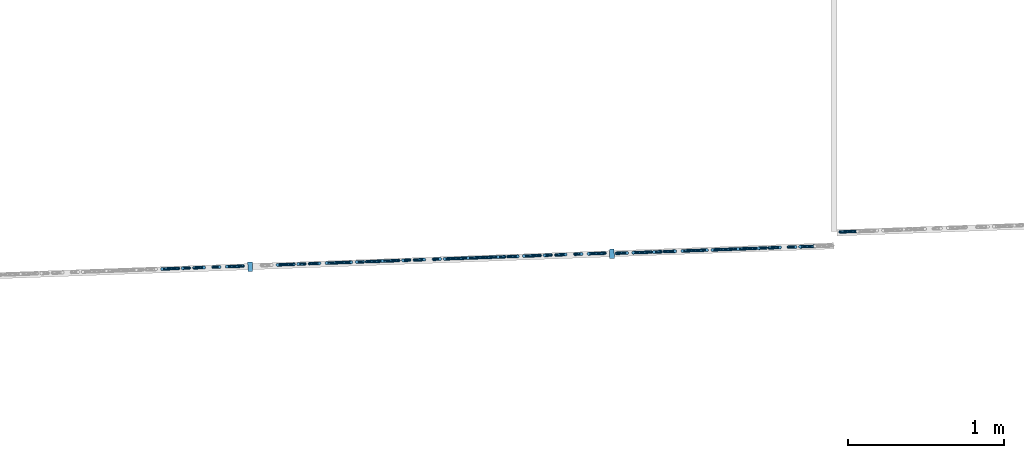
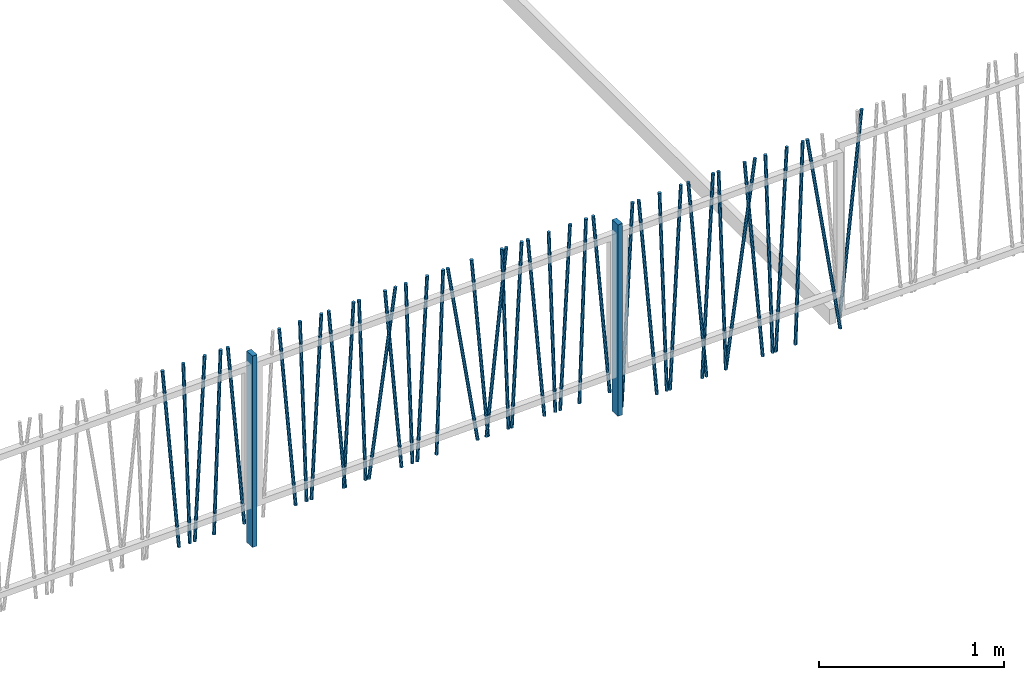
# One storey, part 8 of 171: 42 columns.
"""IFC2X3 building model written with IfcOpenShell, lengths in millimetres."""

from ifc_helpers import new_model, entity, si_unit, converted_unit, derived_unit, money_unit, direction, frame, origin_with_axes, origin_2d_with_axis, place, context, subcontext, project, spatial, rectangle, circle, extrude, clip, halfspace, material, type_object, element, save


model = new_model("IFC2X3")

# Units and contexts
model_context = context("Model", 3, precision=0.01, world=origin_with_axes(), true_north=direction((0.0, 1.0)))
body_context = subcontext(model_context, "Body", "Model", "MODEL_VIEW")
ifc_project = project(units=[si_unit("LENGTHUNIT", "METRE", prefix="MILLI"), si_unit("AREAUNIT", "SQUARE_METRE"), si_unit("VOLUMEUNIT", "CUBIC_METRE"), converted_unit("PLANEANGLEUNIT", "DEGREE", entity("IfcPlaneAngleMeasure", 0.0174532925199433), si_unit("PLANEANGLEUNIT", "RADIAN"), dimensions=[0, 0, 0, 0, 0, 0, 0]), money_unit("USD"), converted_unit("TIMEUNIT", "Year", entity("IfcTimeMeasure", 31557600.0), si_unit("TIMEUNIT", "SECOND"), dimensions=[0, 0, 1, 0, 0, 0, 0]), si_unit("MASSUNIT", "GRAM", prefix="KILO"), si_unit("THERMODYNAMICTEMPERATUREUNIT", "DEGREE_CELSIUS"), si_unit("LUMINOUSINTENSITYUNIT", "LUMEN"), si_unit("ENERGYUNIT", "JOULE", prefix="MEGA"), derived_unit("THERMALCONDUCTANCEUNIT", [(si_unit("POWERUNIT", "WATT"), 1), (si_unit("LENGTHUNIT", "METRE"), -1), (si_unit("THERMODYNAMICTEMPERATUREUNIT", "KELVIN"), -1)]), derived_unit("SPECIFICHEATCAPACITYUNIT", [(si_unit("ENERGYUNIT", "JOULE"), 1), (si_unit("MASSUNIT", "GRAM", prefix="KILO"), -1), (si_unit("THERMODYNAMICTEMPERATUREUNIT", "KELVIN"), -1)]), derived_unit("MASSDENSITYUNIT", [(si_unit("MASSUNIT", "GRAM", prefix="KILO"), 1), (si_unit("VOLUMEUNIT", "CUBIC_METRE"), -1)])], contexts=[model_context])

# Site, building, storey
site_placement = place(None, origin_with_axes())
site = spatial("IfcSite", under=ifc_project, at=site_placement, Name="Site", CompositionType="ELEMENT")
building_placement = place(site_placement, origin_with_axes())
building = spatial("IfcBuilding", under=site, at=building_placement, Name="Bâtiment", CompositionType="ELEMENT")
storey_placement = place(building_placement, frame((0.0, 0.0, 3000.0), z_axis=(0.0, 0.0, 1.0), x_axis=(1.0, 0.0, 0.0)))
storey = spatial("IfcBuildingStorey", under=building, at=storey_placement, Name="rdc", CompositionType="ELEMENT", Elevation=3000.0)

# Columns
ifc_material = material(Name="Empty Fill 2959611567")
column_type_1 = type_object("IfcColumnType", Name="Empty Fill 2959611567 D20", PredefinedType="NOTDEFINED")
column_1_placement = place(storey_placement, frame((2243227.355771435, -667128.4655792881, -2071.2112281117), z_axis=(0.0, 0.0, 1.0), x_axis=(0.03567989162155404, -0.9993632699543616, 0.0)))
element("IfcColumn", 1, at=column_1_placement, inside=storey, type_object=column_type_1, material=ifc_material, Name="Pilier-019", context=body_context, shape_type="Clipping", body=[
    clip(clip(extrude(circle(Radius=10.0, at=origin_2d_with_axis()), frame((0.0, -0.2197276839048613, -2.090569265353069), z_axis=(0.0, -0.1045284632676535, -0.9945218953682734), x_axis=(-1.0, 0.0, 0.0)), (0.0, 0.0, -1.0), 1332.692998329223), halfspace(frame((0.0, 0.0, 0.0), z_axis=(0.0, 0.0, 1.0), x_axis=(0.0, -1.0, 0.0)), True)), halfspace(frame((0.0, 0.0, 1321.2112281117), z_axis=(0.0, 0.0, -1.0), x_axis=(0.0, 1.0, 0.0)), True)),
])
column_2_placement = place(storey_placement, frame((2242749.862296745, -667231.5837930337, -2071.2112281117), z_axis=(0.0, 0.0, 1.0), x_axis=(-0.03567989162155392, 0.9993632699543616, 0.0)))
element("IfcColumn", 2, at=column_2_placement, inside=storey, type_object=column_type_1, material=ifc_material, Name="Pilier-019", context=body_context, shape_type="Clipping", body=[
    clip(clip(extrude(circle(Radius=10.0, at=origin_2d_with_axis()), frame((0.0, -0.02437434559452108, -0.6979899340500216), z_axis=(0.0, 0.03489949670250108, 0.9993908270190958), x_axis=(1.0, 0.0, 0.0)), (0.0, 0.0, 1.0), 1323.413395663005), halfspace(frame((0.0, 0.0, 0.0), z_axis=(0.0, 0.0, 1.0), x_axis=(0.0, -1.0, 0.0)), True)), halfspace(frame((0.0, 0.0, 1321.2112281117), z_axis=(0.0, 0.0, -1.0), x_axis=(0.0, 1.0, 0.0)), True)),
])
column_3_placement = place(storey_placement, frame((2242894.930412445, -667226.4044805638, -2071.2112281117), z_axis=(0.0, 0.0, 1.0), x_axis=(0.03567989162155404, -0.9993632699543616, 0.0)))
element("IfcColumn", 3, at=column_3_placement, inside=storey, type_object=column_type_1, material=ifc_material, Name="Pilier-019", context=body_context, shape_type="Clipping", body=[
    clip(clip(extrude(circle(Radius=10.0, at=origin_2d_with_axis()), frame((0.0, -0.02437434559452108, -0.6979899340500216), z_axis=(0.0, -0.03489949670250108, -0.9993908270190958), x_axis=(-1.0, 0.0, 0.0)), (0.0, 0.0, -1.0), 1323.413395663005), halfspace(frame((0.0, 0.0, 0.0), z_axis=(0.0, 0.0, 1.0), x_axis=(0.0, -1.0, 0.0)), True)), halfspace(frame((0.0, 0.0, 1321.2112281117), z_axis=(0.0, 0.0, -1.0), x_axis=(0.0, 1.0, 0.0)), True)),
])
for number, where, z_axis, x_axis, name in (
    (4, (2242097.550067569, -667254.8730516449, -2071.2112281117), (0.0, 0.0, 1.0), (0.03567989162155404, -0.9993632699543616, 0.0), "Pilier-019"),
    (5, (2242770.557064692, -667230.8449355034, -2071.2112281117), (0.0, 0.0, 1.0), (0.03567989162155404, -0.9993632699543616, 0.0), "Pilier-019"),
):
    element("IfcColumn", number, at=place(storey_placement, frame(where, z_axis=z_axis, x_axis=x_axis)), inside=storey, type_object=column_type_1, material=ifc_material, Name=name, context=body_context, shape_type="Clipping", body=[
        clip(clip(extrude(circle(Radius=10.0, at=origin_2d_with_axis()), frame((0.0, -0.05485622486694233, -1.046719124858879), z_axis=(0.0, -0.05233595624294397, -0.9986295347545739), x_axis=(-1.0, 0.0, 0.0)), (0.0, 0.0, -1.0), 1325.120698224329), halfspace(frame((0.0, 0.0, 0.0), z_axis=(0.0, 0.0, 1.0), x_axis=(0.0, -1.0, 0.0)), True)), halfspace(frame((0.0, 0.0, 1321.2112281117), z_axis=(0.0, 0.0, -1.0), x_axis=(0.0, 1.0, 0.0)), True)),
    ])
column_4_placement = place(storey_placement, frame((2242452.312746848, -667242.2070929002, -2071.2112281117), z_axis=(0.0, 0.0, 1.0), x_axis=(-0.03567989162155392, 0.9993632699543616, 0.0)))
element("IfcColumn", 6, at=column_4_placement, inside=storey, type_object=column_type_1, material=ifc_material, Name="Pilier-019", context=body_context, shape_type="Clipping", body=[
    clip(clip(extrude(circle(Radius=10.0, at=origin_2d_with_axis()), frame((0.0, -0.02437434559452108, -0.6979899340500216), z_axis=(0.0, 0.03489949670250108, 0.9993908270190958), x_axis=(1.0, 0.0, 0.0)), (0.0, 0.0, 1.0), 1323.413395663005), halfspace(frame((0.0, 0.0, 0.0), z_axis=(0.0, 0.0, 1.0), x_axis=(0.0, -1.0, 0.0)), True)), halfspace(frame((0.0, 0.0, 1321.2112281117), z_axis=(0.0, 0.0, -1.0), x_axis=(0.0, 1.0, 0.0)), True)),
])
column_5_placement = place(storey_placement, frame((2242452.179292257, -667242.2118575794, -2071.2112281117), z_axis=(0.0, 0.0, 1.0), x_axis=(0.03567989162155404, -0.9993632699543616, 0.0)))
element("IfcColumn", 7, at=column_5_placement, inside=storey, type_object=column_type_1, material=ifc_material, Name="Pilier-019", context=body_context, shape_type="Clipping", body=[
    clip(clip(extrude(circle(Radius=10.0, at=origin_2d_with_axis()), frame((0.0, -0.3911900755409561, -2.78346201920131), z_axis=(0.0, -0.1391731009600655, -0.9902680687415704), x_axis=(-1.0, 0.0, 0.0)), (0.0, 0.0, -1.0), 1339.817160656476), halfspace(frame((0.0, 0.0, 0.0), z_axis=(0.0, 0.0, 1.0), x_axis=(0.0, -1.0, 0.0)), True)), halfspace(frame((0.0, 0.0, 1321.2112281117), z_axis=(0.0, 0.0, -1.0), x_axis=(0.0, 1.0, 0.0)), True)),
])
column_6_placement = place(storey_placement, frame((2242686.809941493, -667233.8349276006, -2071.2112281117), z_axis=(0.0, 0.0, 1.0), x_axis=(-0.03567989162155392, 0.9993632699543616, 0.0)))
element("IfcColumn", 8, at=column_6_placement, inside=storey, type_object=column_type_1, material=ifc_material, Name="Pilier-019", context=body_context, shape_type="Clipping", body=[
    clip(clip(extrude(circle(Radius=10.0, at=origin_2d_with_axis()), frame((0.0, -0.152502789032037, -1.743114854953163), z_axis=(0.0, 0.08715574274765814, 0.9961946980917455), x_axis=(1.0, 0.0, 0.0)), (0.0, 0.0, 1.0), 1329.75758690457), halfspace(frame((0.0, 0.0, 0.0), z_axis=(0.0, 0.0, 1.0), x_axis=(0.0, -1.0, 0.0)), True)), halfspace(frame((0.0, 0.0, 1321.2112281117), z_axis=(0.0, 0.0, -1.0), x_axis=(0.0, 1.0, 0.0)), True)),
])
column_7_placement = place(storey_placement, frame((2242076.855299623, -667255.6119091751, -2071.2112281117), z_axis=(0.0, 0.0, 1.0), x_axis=(-0.03567989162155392, 0.9993632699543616, 0.0)))
element("IfcColumn", 9, at=column_7_placement, inside=storey, type_object=column_type_1, material=ifc_material, Name="Pilier-019", context=body_context, shape_type="Clipping", body=[
    clip(clip(extrude(circle(Radius=10.0, at=origin_2d_with_axis()), frame((0.0, -0.02437434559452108, -0.6979899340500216), z_axis=(0.0, 0.03489949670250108, 0.9993908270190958), x_axis=(1.0, 0.0, 0.0)), (0.0, 0.0, 1.0), 1323.413395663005), halfspace(frame((0.0, 0.0, 0.0), z_axis=(0.0, 0.0, 1.0), x_axis=(0.0, -1.0, 0.0)), True)), halfspace(frame((0.0, 0.0, 1321.2112281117), z_axis=(0.0, 0.0, -1.0), x_axis=(0.0, 1.0, 0.0)), True)),
])
column_8_placement = place(storey_placement, frame((2242328.850263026, -667246.6150276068, -2071.2112281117), z_axis=(0.0, 0.0, 1.0), x_axis=(-0.03567989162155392, 0.9993632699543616, 0.0)))
element("IfcColumn", 10, at=column_8_placement, inside=storey, type_object=column_type_1, material=ifc_material, Name="Pilier-019", context=body_context, shape_type="Clipping", body=[
    clip(clip(extrude(circle(Radius=10.0, at=origin_2d_with_axis()), frame((0.0, -0.152502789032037, -1.743114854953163), z_axis=(0.0, 0.08715574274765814, 0.9961946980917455), x_axis=(1.0, 0.0, 0.0)), (0.0, 0.0, 1.0), 1329.75758690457), halfspace(frame((0.0, 0.0, 0.0), z_axis=(0.0, 0.0, 1.0), x_axis=(0.0, -1.0, 0.0)), True)), halfspace(frame((0.0, 0.0, 1321.2112281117), z_axis=(0.0, 0.0, -1.0), x_axis=(0.0, 1.0, 0.0)), True)),
])
column_9_placement = place(storey_placement, frame((2243179.518060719, -667216.2439546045, -2071.2112281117), z_axis=(0.0, 0.0, 1.0), x_axis=(-0.03567989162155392, 0.9993632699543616, 0.0)))
element("IfcColumn", 11, at=column_9_placement, inside=storey, type_object=column_type_1, material=ifc_material, Name="Pilier-019", context=body_context, shape_type="Clipping", body=[
    clip(clip(extrude(circle(Radius=10.0, at=origin_2d_with_axis()), frame((0.0, -0.4955357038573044, -3.128689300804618), z_axis=(0.0, 0.1564344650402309, 0.9876883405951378), x_axis=(1.0, 0.0, 0.0)), (0.0, 0.0, 1.0), 1344.015669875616), halfspace(frame((0.0, 0.0, 0.0), z_axis=(0.0, 0.0, 1.0), x_axis=(0.0, -1.0, 0.0)), True)), halfspace(frame((0.0, 0.0, 1321.2112281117), z_axis=(0.0, 0.0, -1.0), x_axis=(0.0, 1.0, 0.0)), True)),
])
for number, where, z_axis, x_axis, name in (
    (12, (2242302.005706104, -667247.573448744, -2071.2112281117), (0.0, 0.0, 1.0), (0.03567989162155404, -0.9993632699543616, 0.0), "Pilier-019"),
    (13, (2241789.848209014, -667265.8588155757, -2071.2112281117), (0.0, 0.0, 1.0), (0.03567989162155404, -0.9993632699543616, 0.0), "Pilier-019"),
):
    element("IfcColumn", number, at=place(storey_placement, frame(where, z_axis=z_axis, x_axis=x_axis)), inside=storey, type_object=column_type_1, material=ifc_material, Name=name, context=body_context, shape_type="Clipping", body=[
        clip(clip(extrude(circle(Radius=10.0, at=origin_2d_with_axis()), frame((0.0, -0.05485622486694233, -1.046719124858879), z_axis=(0.0, -0.05233595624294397, -0.9986295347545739), x_axis=(-1.0, 0.0, 0.0)), (0.0, 0.0, -1.0), 1325.120698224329), halfspace(frame((0.0, 0.0, 0.0), z_axis=(0.0, 0.0, 1.0), x_axis=(0.0, -1.0, 0.0)), True)), halfspace(frame((0.0, 0.0, 1321.2112281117), z_axis=(0.0, 0.0, -1.0), x_axis=(0.0, 1.0, 0.0)), True)),
    ])
column_10_placement = place(storey_placement, frame((2239719.357314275, -667336.2186967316, -1950.0), z_axis=(0.0, 0.0, 1.0), x_axis=(-0.03567989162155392, 0.9993632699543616, 0.0)))
element("IfcColumn", 14, at=column_10_placement, inside=storey, type_object=column_type_1, material=ifc_material, Name="Pilier-019", context=body_context, shape_type="Clipping", body=[
    clip(clip(extrude(circle(Radius=10.0, at=origin_2d_with_axis()), frame((0.0, -0.152502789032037, -1.743114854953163), z_axis=(0.0, 0.08715574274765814, 0.9961946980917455), x_axis=(1.0, 0.0, 0.0)), (0.0, 0.0, 1.0), 1208.083351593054), halfspace(frame((0.0, 0.0, 0.0), z_axis=(0.0, 0.0, 1.0), x_axis=(0.0, -1.0, 0.0)), True)), halfspace(frame((0.0, 0.0, 1200.0), z_axis=(0.0, 0.0, -1.0), x_axis=(0.0, 1.0, 0.0)), True)),
])
column_11_placement = place(storey_placement, frame((2241072.521105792, -667287.9071979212, -1950.0), z_axis=(0.0, 0.0, 1.0), x_axis=(-0.03567989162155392, 0.9993632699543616, 0.0)))
element("IfcColumn", 15, at=column_11_placement, inside=storey, type_object=column_type_1, material=ifc_material, Name="Pilier-019", context=body_context, shape_type="Clipping", body=[
    clip(clip(extrude(circle(Radius=10.0, at=origin_2d_with_axis()), frame((0.0, -0.02437434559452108, -0.6979899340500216), z_axis=(0.0, 0.03489949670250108, 0.9993908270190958), x_axis=(1.0, 0.0, 0.0)), (0.0, 0.0, 1.0), 1202.128283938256), halfspace(frame((0.0, 0.0, 0.0), z_axis=(0.0, 0.0, 1.0), x_axis=(0.0, -1.0, 0.0)), True)), halfspace(frame((0.0, 0.0, 1200.0), z_axis=(0.0, 0.0, -1.0), x_axis=(0.0, 1.0, 0.0)), True)),
])
column_12_placement = place(storey_placement, frame((2241300.650538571, -667279.7623784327, -1950.0), z_axis=(0.0, 0.0, 1.0), x_axis=(-0.03567989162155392, 0.9993632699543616, 0.0)))
element("IfcColumn", 16, at=column_12_placement, inside=storey, type_object=column_type_1, material=ifc_material, Name="Pilier-019", context=body_context, shape_type="Clipping", body=[
    clip(clip(extrude(circle(Radius=10.0, at=origin_2d_with_axis()), frame((0.0, -0.152502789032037, -1.743114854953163), z_axis=(0.0, 0.08715574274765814, 0.9961946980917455), x_axis=(1.0, 0.0, 0.0)), (0.0, 0.0, 1.0), 1208.083351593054), halfspace(frame((0.0, 0.0, 0.0), z_axis=(0.0, 0.0, 1.0), x_axis=(0.0, -1.0, 0.0)), True)), halfspace(frame((0.0, 0.0, 1200.0), z_axis=(0.0, 0.0, -1.0), x_axis=(0.0, 1.0, 0.0)), True)),
])
column_13_placement = place(storey_placement, frame((2241523.598959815, -667271.8025346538, -1950.0), z_axis=(0.0, 0.0, 1.0), x_axis=(0.03567989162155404, -0.9993632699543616, 0.0)))
element("IfcColumn", 17, at=column_13_placement, inside=storey, type_object=column_type_1, material=ifc_material, Name="Pilier-019", context=body_context, shape_type="Clipping", body=[
    clip(clip(extrude(circle(Radius=10.0, at=origin_2d_with_axis()), frame((0.0, -0.02437434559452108, -0.6979899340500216), z_axis=(0.0, -0.03489949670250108, -0.9993908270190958), x_axis=(-1.0, 0.0, 0.0)), (0.0, 0.0, -1.0), 1202.128283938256), halfspace(frame((0.0, 0.0, 0.0), z_axis=(0.0, 0.0, 1.0), x_axis=(0.0, -1.0, 0.0)), True)), halfspace(frame((0.0, 0.0, 1200.0), z_axis=(0.0, 0.0, -1.0), x_axis=(0.0, 1.0, 0.0)), True)),
])
column_14_placement = place(storey_placement, frame((2241370.07065569, -667277.2838980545, -1950.0), z_axis=(0.0, 0.0, 1.0), x_axis=(-0.03567989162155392, 0.9993632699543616, 0.0)))
element("IfcColumn", 18, at=column_14_placement, inside=storey, type_object=column_type_1, material=ifc_material, Name="Pilier-019", context=body_context, shape_type="Clipping", body=[
    clip(clip(extrude(circle(Radius=10.0, at=origin_2d_with_axis()), frame((0.0, -0.02437434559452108, -0.6979899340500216), z_axis=(0.0, 0.03489949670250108, 0.9993908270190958), x_axis=(1.0, 0.0, 0.0)), (0.0, 0.0, 1.0), 1202.128283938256), halfspace(frame((0.0, 0.0, 0.0), z_axis=(0.0, 0.0, 1.0), x_axis=(0.0, -1.0, 0.0)), True)), halfspace(frame((0.0, 0.0, 1200.0), z_axis=(0.0, 0.0, -1.0), x_axis=(0.0, 1.0, 0.0)), True)),
])
column_15_placement = place(storey_placement, frame((2241401.343884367, -667276.1673617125, -1950.0), z_axis=(0.0, 0.0, 1.0), x_axis=(0.03567989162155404, -0.9993632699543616, 0.0)))
element("IfcColumn", 19, at=column_15_placement, inside=storey, type_object=column_type_1, material=ifc_material, Name="Pilier-019", context=body_context, shape_type="Clipping", body=[
    clip(clip(extrude(circle(Radius=10.0, at=origin_2d_with_axis()), frame((0.0, -0.05485622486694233, -1.046719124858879), z_axis=(0.0, -0.05233595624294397, -0.9986295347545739), x_axis=(-1.0, 0.0, 0.0)), (0.0, 0.0, -1.0), 1203.743126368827), halfspace(frame((0.0, 0.0, 0.0), z_axis=(0.0, 0.0, 1.0), x_axis=(0.0, -1.0, 0.0)), True)), halfspace(frame((0.0, 0.0, 1200.0), z_axis=(0.0, 0.0, -1.0), x_axis=(0.0, 1.0, 0.0)), True)),
])
column_16_placement = place(storey_placement, frame((2240932.792525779, -667292.895874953, -1950.0), z_axis=(0.0, 0.0, 1.0), x_axis=(0.03567989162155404, -0.9993632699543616, 0.0)))
element("IfcColumn", 20, at=column_16_placement, inside=storey, type_object=column_type_1, material=ifc_material, Name="Pilier-019", context=body_context, shape_type="Clipping", body=[
    clip(clip(extrude(circle(Radius=10.0, at=origin_2d_with_axis()), frame((0.0, -0.2197276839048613, -2.090569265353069), z_axis=(0.0, -0.1045284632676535, -0.9945218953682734), x_axis=(-1.0, 0.0, 0.0)), (0.0, 0.0, -1.0), 1210.814104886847), halfspace(frame((0.0, 0.0, 0.0), z_axis=(0.0, 0.0, 1.0), x_axis=(0.0, -1.0, 0.0)), True)), halfspace(frame((0.0, 0.0, 1200.0), z_axis=(0.0, 0.0, -1.0), x_axis=(0.0, 1.0, 0.0)), True)),
])
column_17_placement = place(storey_placement, frame((2240392.364311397, -667312.1905805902, -1950.0), z_axis=(0.0, 0.0, 1.0), x_axis=(-0.03567989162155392, 0.9993632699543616, 0.0)))
element("IfcColumn", 21, at=column_17_placement, inside=storey, type_object=column_type_1, material=ifc_material, Name="Pilier-019", context=body_context, shape_type="Clipping", body=[
    clip(clip(extrude(circle(Radius=10.0, at=origin_2d_with_axis()), frame((0.0, -0.152502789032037, -1.743114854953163), z_axis=(0.0, 0.08715574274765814, 0.9961946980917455), x_axis=(1.0, 0.0, 0.0)), (0.0, 0.0, 1.0), 1208.083351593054), halfspace(frame((0.0, 0.0, 0.0), z_axis=(0.0, 0.0, 1.0), x_axis=(0.0, -1.0, 0.0)), True)), halfspace(frame((0.0, 0.0, 1200.0), z_axis=(0.0, 0.0, -1.0), x_axis=(0.0, 1.0, 0.0)), True)),
])
column_18_placement = place(storey_placement, frame((2241093.642025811, -667287.1531256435, -1950.0), z_axis=(0.0, 0.0, 1.0), x_axis=(0.03567989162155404, -0.9993632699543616, 0.0)))
element("IfcColumn", 22, at=column_18_placement, inside=storey, type_object=column_type_1, material=ifc_material, Name="Pilier-019", context=body_context, shape_type="Clipping", body=[
    clip(clip(extrude(circle(Radius=10.0, at=origin_2d_with_axis()), frame((0.0, -0.05485622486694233, -1.046719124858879), z_axis=(0.0, -0.05233595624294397, -0.9986295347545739), x_axis=(-1.0, 0.0, 0.0)), (0.0, 0.0, -1.0), 1203.743126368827), halfspace(frame((0.0, 0.0, 0.0), z_axis=(0.0, 0.0, 1.0), x_axis=(0.0, -1.0, 0.0)), True)), halfspace(frame((0.0, 0.0, 1200.0), z_axis=(0.0, 0.0, -1.0), x_axis=(0.0, 1.0, 0.0)), True)),
])
column_19_placement = place(storey_placement, frame((2240034.404632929, -667324.9706805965, -1950.0), z_axis=(0.0, 0.0, 1.0), x_axis=(-0.03567989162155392, 0.9993632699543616, 0.0)))
element("IfcColumn", 23, at=column_19_placement, inside=storey, type_object=column_type_1, material=ifc_material, Name="Pilier-019", context=body_context, shape_type="Clipping", body=[
    clip(clip(extrude(circle(Radius=10.0, at=origin_2d_with_axis()), frame((0.0, -0.152502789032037, -1.743114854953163), z_axis=(0.0, 0.08715574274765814, 0.9961946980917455), x_axis=(1.0, 0.0, 0.0)), (0.0, 0.0, 1.0), 1208.083351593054), halfspace(frame((0.0, 0.0, 0.0), z_axis=(0.0, 0.0, 1.0), x_axis=(0.0, -1.0, 0.0)), True)), halfspace(frame((0.0, 0.0, 1200.0), z_axis=(0.0, 0.0, -1.0), x_axis=(0.0, 1.0, 0.0)), True)),
])
column_20_placement = place(storey_placement, frame((2239788.777431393, -667333.7402163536, -1950.0), z_axis=(0.0, 0.0, 1.0), x_axis=(-0.03567989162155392, 0.9993632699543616, 0.0)))
element("IfcColumn", 24, at=column_20_placement, inside=storey, type_object=column_type_1, material=ifc_material, Name="Pilier-019", context=body_context, shape_type="Clipping", body=[
    clip(clip(extrude(circle(Radius=10.0, at=origin_2d_with_axis()), frame((0.0, -0.02437434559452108, -0.6979899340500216), z_axis=(0.0, 0.03489949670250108, 0.9993908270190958), x_axis=(1.0, 0.0, 0.0)), (0.0, 0.0, 1.0), 1202.128283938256), halfspace(frame((0.0, 0.0, 0.0), z_axis=(0.0, 0.0, 1.0), x_axis=(0.0, -1.0, 0.0)), True)), halfspace(frame((0.0, 0.0, 1200.0), z_axis=(0.0, 0.0, -1.0), x_axis=(0.0, 1.0, 0.0)), True)),
])
column_21_placement = place(storey_placement, frame((2239820.05066007, -667332.6236800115, -1950.0), z_axis=(0.0, 0.0, 1.0), x_axis=(0.03567989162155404, -0.9993632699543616, 0.0)))
element("IfcColumn", 25, at=column_21_placement, inside=storey, type_object=column_type_1, material=ifc_material, Name="Pilier-019", context=body_context, shape_type="Clipping", body=[
    clip(clip(extrude(circle(Radius=10.0, at=origin_2d_with_axis()), frame((0.0, -0.05485622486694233, -1.046719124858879), z_axis=(0.0, -0.05233595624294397, -0.9986295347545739), x_axis=(-1.0, 0.0, 0.0)), (0.0, 0.0, -1.0), 1203.743126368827), halfspace(frame((0.0, 0.0, 0.0), z_axis=(0.0, 0.0, 1.0), x_axis=(0.0, -1.0, 0.0)), True)), halfspace(frame((0.0, 0.0, 1200.0), z_axis=(0.0, 0.0, -1.0), x_axis=(0.0, 1.0, 0.0)), True)),
])
for number, where, z_axis, x_axis, name in (
    (26, (2240942.690860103, -667292.5424784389, -1950.0), (0.0, 0.0, 1.0), (-0.03567989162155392, 0.9993632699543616, 0.0), "Pilier-019"),
    (27, (2241716.068244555, -667264.9308760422, -1950.0), (0.0, 0.0, 1.0), (-0.03567989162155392, 0.9993632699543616, 0.0), "Pilier-019"),
):
    element("IfcColumn", number, at=place(storey_placement, frame(where, z_axis=z_axis, x_axis=x_axis)), inside=storey, type_object=column_type_1, material=ifc_material, Name=name, context=body_context, shape_type="Clipping", body=[
        clip(clip(extrude(circle(Radius=10.0, at=origin_2d_with_axis()), frame((0.0, -0.152502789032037, -1.743114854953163), z_axis=(0.0, 0.08715574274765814, 0.9961946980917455), x_axis=(1.0, 0.0, 0.0)), (0.0, 0.0, 1.0), 1208.083351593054), halfspace(frame((0.0, 0.0, 0.0), z_axis=(0.0, 0.0, 1.0), x_axis=(0.0, -1.0, 0.0)), True)), halfspace(frame((0.0, 0.0, 1200.0), z_axis=(0.0, 0.0, -1.0), x_axis=(0.0, 1.0, 0.0)), True)),
    ])
column_22_placement = place(storey_placement, frame((2240876.484538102, -667294.9062178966, -1950.0), z_axis=(0.0, 0.0, 1.0), x_axis=(-0.03567989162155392, 0.9993632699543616, 0.0)))
element("IfcColumn", 28, at=column_22_placement, inside=storey, type_object=column_type_1, material=ifc_material, Name="Pilier-019", context=body_context, shape_type="Clipping", body=[
    clip(clip(extrude(circle(Radius=10.0, at=origin_2d_with_axis()), frame((0.0, -0.4955357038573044, -3.128689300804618), z_axis=(0.0, 0.1564344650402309, 0.9876883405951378), x_axis=(1.0, 0.0, 0.0)), (0.0, 0.0, 1.0), 1221.293528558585), halfspace(frame((0.0, 0.0, 0.0), z_axis=(0.0, 0.0, 1.0), x_axis=(0.0, -1.0, 0.0)), True)), halfspace(frame((0.0, 0.0, 1200.0), z_axis=(0.0, 0.0, -1.0), x_axis=(0.0, 1.0, 0.0)), True)),
])
column_23_placement = place(storey_placement, frame((2240185.355798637, -667319.5813278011, -1950.0), z_axis=(0.0, 0.0, 1.0), x_axis=(0.03567989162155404, -0.9993632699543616, 0.0)))
element("IfcColumn", 29, at=column_23_placement, inside=storey, type_object=column_type_1, material=ifc_material, Name="Pilier-019", context=body_context, shape_type="Clipping", body=[
    clip(clip(extrude(circle(Radius=10.0, at=origin_2d_with_axis()), frame((0.0, -0.3911900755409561, -2.78346201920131), z_axis=(0.0, -0.1391731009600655, -0.9902680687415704), x_axis=(-1.0, 0.0, 0.0)), (0.0, 0.0, -1.0), 1217.414720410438), halfspace(frame((0.0, 0.0, 0.0), z_axis=(0.0, 0.0, 1.0), x_axis=(0.0, -1.0, 0.0)), True)), halfspace(frame((0.0, 0.0, 1200.0), z_axis=(0.0, 0.0, -1.0), x_axis=(0.0, 1.0, 0.0)), True)),
])
column_24_placement = place(storey_placement, frame((2240164.234878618, -667320.3354000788, -1950.0), z_axis=(0.0, 0.0, 1.0), x_axis=(-0.03567989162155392, 0.9993632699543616, 0.0)))
element("IfcColumn", 30, at=column_24_placement, inside=storey, type_object=column_type_1, material=ifc_material, Name="Pilier-019", context=body_context, shape_type="Clipping", body=[
    clip(clip(extrude(circle(Radius=10.0, at=origin_2d_with_axis()), frame((0.0, -0.02437434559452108, -0.6979899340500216), z_axis=(0.0, 0.03489949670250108, 0.9993908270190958), x_axis=(1.0, 0.0, 0.0)), (0.0, 0.0, 1.0), 1202.128283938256), halfspace(frame((0.0, 0.0, 0.0), z_axis=(0.0, 0.0, 1.0), x_axis=(0.0, -1.0, 0.0)), True)), halfspace(frame((0.0, 0.0, 1200.0), z_axis=(0.0, 0.0, -1.0), x_axis=(0.0, 1.0, 0.0)), True)),
])
column_25_placement = place(storey_placement, frame((2240493.057657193, -667308.59556387, -1950.0), z_axis=(0.0, 0.0, 1.0), x_axis=(0.03567989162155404, -0.9993632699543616, 0.0)))
element("IfcColumn", 31, at=column_25_placement, inside=storey, type_object=column_type_1, material=ifc_material, Name="Pilier-019", context=body_context, shape_type="Clipping", body=[
    clip(clip(extrude(circle(Radius=10.0, at=origin_2d_with_axis()), frame((0.0, -0.05485622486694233, -1.046719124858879), z_axis=(0.0, -0.05233595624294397, -0.9986295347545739), x_axis=(-1.0, 0.0, 0.0)), (0.0, 0.0, -1.0), 1203.743126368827), halfspace(frame((0.0, 0.0, 0.0), z_axis=(0.0, 0.0, 1.0), x_axis=(0.0, -1.0, 0.0)), True)), halfspace(frame((0.0, 0.0, 1200.0), z_axis=(0.0, 0.0, -1.0), x_axis=(0.0, 1.0, 0.0)), True)),
])
column_26_placement = place(storey_placement, frame((2240461.784428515, -667309.7121002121, -1950.0), z_axis=(0.0, 0.0, 1.0), x_axis=(-0.03567989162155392, 0.9993632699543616, 0.0)))
element("IfcColumn", 32, at=column_26_placement, inside=storey, type_object=column_type_1, material=ifc_material, Name="Pilier-019", context=body_context, shape_type="Clipping", body=[
    clip(clip(extrude(circle(Radius=10.0, at=origin_2d_with_axis()), frame((0.0, -0.02437434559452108, -0.6979899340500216), z_axis=(0.0, 0.03489949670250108, 0.9993908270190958), x_axis=(1.0, 0.0, 0.0)), (0.0, 0.0, 1.0), 1202.128283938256), halfspace(frame((0.0, 0.0, 0.0), z_axis=(0.0, 0.0, 1.0), x_axis=(0.0, -1.0, 0.0)), True)), halfspace(frame((0.0, 0.0, 1200.0), z_axis=(0.0, 0.0, -1.0), x_axis=(0.0, 1.0, 0.0)), True)),
])
column_27_placement = place(storey_placement, frame((2240615.31273264, -667304.2307368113, -1950.0), z_axis=(0.0, 0.0, 1.0), x_axis=(0.03567989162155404, -0.9993632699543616, 0.0)))
element("IfcColumn", 33, at=column_27_placement, inside=storey, type_object=column_type_1, material=ifc_material, Name="Pilier-019", context=body_context, shape_type="Clipping", body=[
    clip(clip(extrude(circle(Radius=10.0, at=origin_2d_with_axis()), frame((0.0, -0.02437434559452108, -0.6979899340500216), z_axis=(0.0, -0.03489949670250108, -0.9993908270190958), x_axis=(-1.0, 0.0, 0.0)), (0.0, 0.0, -1.0), 1202.128283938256), halfspace(frame((0.0, 0.0, 0.0), z_axis=(0.0, 0.0, 1.0), x_axis=(0.0, -1.0, 0.0)), True)), halfspace(frame((0.0, 0.0, 1200.0), z_axis=(0.0, 0.0, -1.0), x_axis=(0.0, 1.0, 0.0)), True)),
])
column_28_placement = place(storey_placement, frame((2240024.506298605, -667325.3240771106, -1950.0), z_axis=(0.0, 0.0, 1.0), x_axis=(0.03567989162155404, -0.9993632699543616, 0.0)))
element("IfcColumn", 34, at=column_28_placement, inside=storey, type_object=column_type_1, material=ifc_material, Name="Pilier-019", context=body_context, shape_type="Clipping", body=[
    clip(clip(extrude(circle(Radius=10.0, at=origin_2d_with_axis()), frame((0.0, -0.05485622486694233, -1.046719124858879), z_axis=(0.0, -0.05233595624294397, -0.9986295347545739), x_axis=(-1.0, 0.0, 0.0)), (0.0, 0.0, -1.0), 1203.743126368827), halfspace(frame((0.0, 0.0, 0.0), z_axis=(0.0, 0.0, 1.0), x_axis=(0.0, -1.0, 0.0)), True)), halfspace(frame((0.0, 0.0, 1200.0), z_axis=(0.0, 0.0, -1.0), x_axis=(0.0, 1.0, 0.0)), True)),
])
column_29_placement = place(storey_placement, frame((2238977.662618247, -667362.6991439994, -1950.0), z_axis=(0.0, 0.0, 1.0), x_axis=(-0.03567989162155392, 0.9993632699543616, 0.0)))
element("IfcColumn", 35, at=column_29_placement, inside=storey, type_object=column_type_1, material=ifc_material, Name="Pilier-019", context=body_context, shape_type="Clipping", body=[
    clip(clip(extrude(circle(Radius=10.0, at=origin_2d_with_axis()), frame((0.0, -0.152502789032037, -1.743114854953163), z_axis=(0.0, 0.08715574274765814, 0.9961946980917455), x_axis=(1.0, 0.0, 0.0)), (0.0, 0.0, 1.0), 1208.083351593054), halfspace(frame((0.0, 0.0, 0.0), z_axis=(0.0, 0.0, 1.0), x_axis=(0.0, -1.0, 0.0)), True)), halfspace(frame((0.0, 0.0, 1200.0), z_axis=(0.0, 0.0, -1.0), x_axis=(0.0, 1.0, 0.0)), True)),
])
column_30_placement = place(storey_placement, frame((2239200.61103949, -667354.7393002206, -1950.0), z_axis=(0.0, 0.0, 1.0), x_axis=(0.03567989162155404, -0.9993632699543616, 0.0)))
element("IfcColumn", 36, at=column_30_placement, inside=storey, type_object=column_type_1, material=ifc_material, Name="Pilier-019", context=body_context, shape_type="Clipping", body=[
    clip(clip(extrude(circle(Radius=10.0, at=origin_2d_with_axis()), frame((0.0, -0.02437434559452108, -0.6979899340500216), z_axis=(0.0, -0.03489949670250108, -0.9993908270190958), x_axis=(-1.0, 0.0, 0.0)), (0.0, 0.0, -1.0), 1202.128283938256), halfspace(frame((0.0, 0.0, 0.0), z_axis=(0.0, 0.0, 1.0), x_axis=(0.0, -1.0, 0.0)), True)), halfspace(frame((0.0, 0.0, 1200.0), z_axis=(0.0, 0.0, -1.0), x_axis=(0.0, 1.0, 0.0)), True)),
])
column_31_placement = place(storey_placement, frame((2239047.082735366, -667360.2206636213, -1950.0), z_axis=(0.0, 0.0, 1.0), x_axis=(-0.03567989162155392, 0.9993632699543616, 0.0)))
element("IfcColumn", 37, at=column_31_placement, inside=storey, type_object=column_type_1, material=ifc_material, Name="Pilier-019", context=body_context, shape_type="Clipping", body=[
    clip(clip(extrude(circle(Radius=10.0, at=origin_2d_with_axis()), frame((0.0, -0.02437434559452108, -0.6979899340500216), z_axis=(0.0, 0.03489949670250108, 0.9993908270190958), x_axis=(1.0, 0.0, 0.0)), (0.0, 0.0, 1.0), 1202.128283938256), halfspace(frame((0.0, 0.0, 0.0), z_axis=(0.0, 0.0, 1.0), x_axis=(0.0, -1.0, 0.0)), True)), halfspace(frame((0.0, 0.0, 1200.0), z_axis=(0.0, 0.0, -1.0), x_axis=(0.0, 1.0, 0.0)), True)),
])
column_32_placement = place(storey_placement, frame((2239078.355964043, -667359.1041272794, -1950.0), z_axis=(0.0, 0.0, 1.0), x_axis=(0.03567989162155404, -0.9993632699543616, 0.0)))
element("IfcColumn", 38, at=column_32_placement, inside=storey, type_object=column_type_1, material=ifc_material, Name="Pilier-019", context=body_context, shape_type="Clipping", body=[
    clip(clip(extrude(circle(Radius=10.0, at=origin_2d_with_axis()), frame((0.0, -0.05485622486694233, -1.046719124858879), z_axis=(0.0, -0.05233595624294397, -0.9986295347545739), x_axis=(-1.0, 0.0, 0.0)), (0.0, 0.0, -1.0), 1203.743126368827), halfspace(frame((0.0, 0.0, 0.0), z_axis=(0.0, 0.0, 1.0), x_axis=(0.0, -1.0, 0.0)), True)), halfspace(frame((0.0, 0.0, 1200.0), z_axis=(0.0, 0.0, -1.0), x_axis=(0.0, 1.0, 0.0)), True)),
])
column_33_placement = place(storey_placement, frame((2239393.080324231, -667347.8676416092, -1950.0), z_axis=(0.0, 0.0, 1.0), x_axis=(-0.03567989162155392, 0.9993632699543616, 0.0)))
element("IfcColumn", 39, at=column_33_placement, inside=storey, type_object=column_type_1, material=ifc_material, Name="Pilier-019", context=body_context, shape_type="Clipping", body=[
    clip(clip(extrude(circle(Radius=10.0, at=origin_2d_with_axis()), frame((0.0, -0.152502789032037, -1.743114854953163), z_axis=(0.0, 0.08715574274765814, 0.9961946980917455), x_axis=(1.0, 0.0, 0.0)), (0.0, 0.0, 1.0), 1208.083351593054), halfspace(frame((0.0, 0.0, 0.0), z_axis=(0.0, 0.0, 1.0), x_axis=(0.0, -1.0, 0.0)), True)), halfspace(frame((0.0, 0.0, 1200.0), z_axis=(0.0, 0.0, -1.0), x_axis=(0.0, 1.0, 0.0)), True)),
])
column_34_placement = place(storey_placement, frame((2242013.802944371, -667257.863043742, -2071.2112281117), z_axis=(0.0, 0.0, 1.0), x_axis=(-0.03567989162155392, 0.9993632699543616, 0.0)))
element("IfcColumn", 40, at=column_34_placement, inside=storey, type_object=column_type_1, material=ifc_material, Name="Pilier-019", context=body_context, shape_type="Clipping", body=[
    clip(clip(extrude(circle(Radius=10.0, at=origin_2d_with_axis()), frame((0.0, -0.152502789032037, -1.743114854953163), z_axis=(0.0, 0.08715574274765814, 0.9961946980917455), x_axis=(1.0, 0.0, 0.0)), (0.0, 0.0, 1.0), 1329.75758690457), halfspace(frame((0.0, 0.0, 0.0), z_axis=(0.0, 0.0, 1.0), x_axis=(0.0, -1.0, 0.0)), True)), halfspace(frame((0.0, 0.0, 1321.2112281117), z_axis=(0.0, 0.0, -1.0), x_axis=(0.0, 1.0, 0.0)), True)),
])
column_type_2 = type_object("IfcColumnType", Name="Empty Fill 2959611567 30 x 60", PredefinedType="NOTDEFINED")
for number, where, z_axis, x_axis, name in (
    (41, (2241761.107557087, -667269.3528570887, -2100.0), (0.0, 0.0, 1.0), (0.9993632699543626, 0.03567989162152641, 0.0), "Pilier-019"),
    (42, (2239438.119636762, -667352.2896226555, -2100.0), (0.0, 0.0, 1.0), (0.9993632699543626, 0.03567989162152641, 0.0), "Pilier-019"),
):
    element("IfcColumn", number, at=place(storey_placement, frame(where, z_axis=z_axis, x_axis=x_axis)), inside=storey, type_object=column_type_2, material=ifc_material, Name=name, context=body_context, shape_type="SweptSolid", body=[
        extrude(rectangle(XDim=30.0, YDim=60.0, at=origin_2d_with_axis()), origin_with_axes(), (0.0, 0.0, 1.0), 1260.0),
    ])

save(model, "model.ifc")
